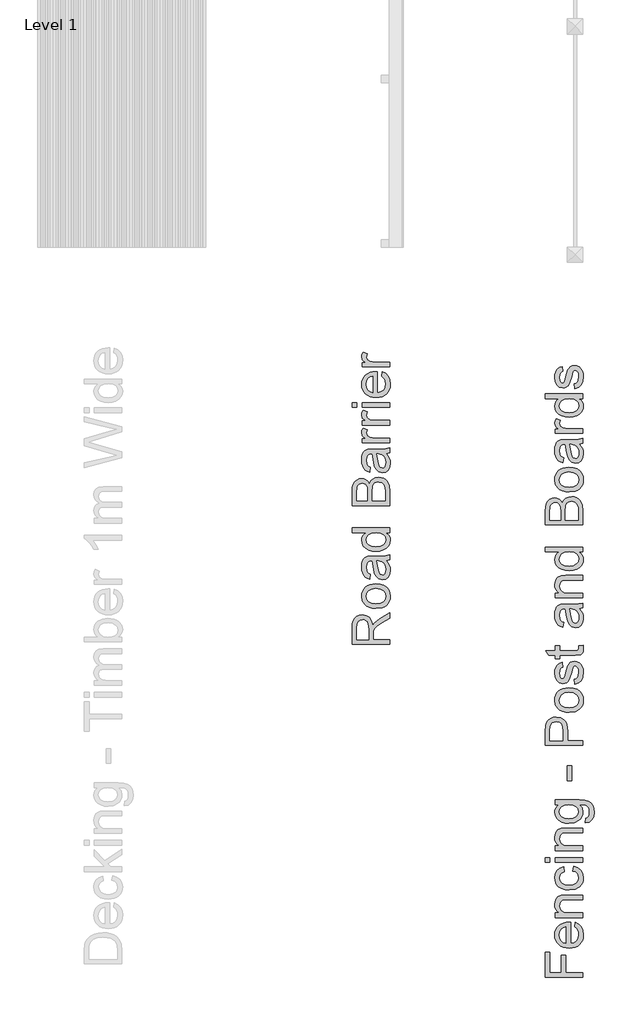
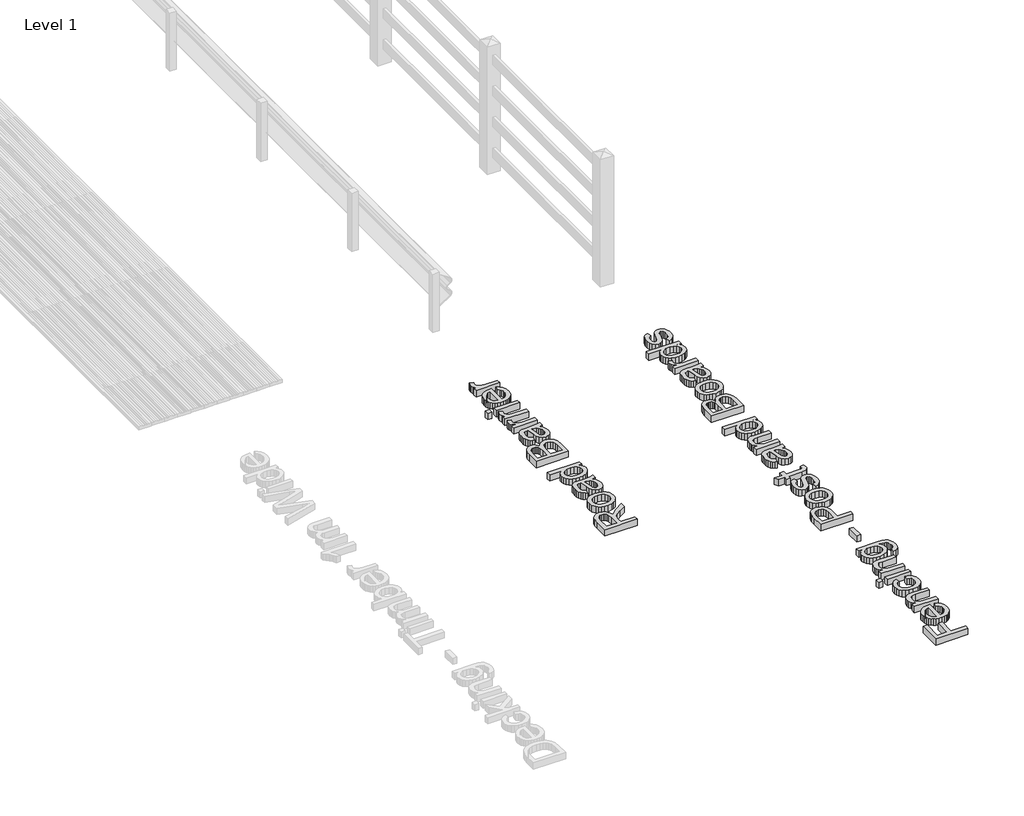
# One storey, part 7 of 7: 2 proxies.
"""IFC4 building model written with IfcOpenShell, lengths in millimetres."""

from ifc_helpers import new_model, si_unit, origin, origin_with_axes, place, context, project, spatial, polyline, outline, extrude, element, save

model = new_model("IFC4")

# Units and contexts
model_context = context("Model", 3, world=origin())
ifc_project = project(units=[si_unit("LENGTHUNIT", "METRE", prefix="MILLI")], contexts=[model_context])

# Site, building, storey
site = spatial("IfcSite", under=ifc_project)
building = spatial("IfcBuilding", under=site)
storey = spatial("IfcBuildingStorey", under=building, Name="Level 1", Elevation=0.0)

# Proxies
placement = place(None, origin())
element("IfcBuildingElementProxy", 1, Name="250mm Arial", ObjectType="250mm Arial", at=placement, inside=storey, context=model_context, shape_type="SweptSolid", body=[
    extrude(outline(polyline([(55560.7579588, -59077.8752425), (55314.6041126, -59077.8752425), (55314.6041126, -58971.805531), (55316.2642688, -58943.297418), (55321.2447376, -58922.5567329), (55330.4394491, -58907.3974781), (55344.7423338, -58895.633656), (55362.4782112, -58888.0840767), (55381.9719011, -58885.5675502), (55406.2206991, -58889.7367209), (55426.3228626, -58902.2442329), (55441.0614443, -58923.4656872), (55449.2194972, -58953.7766848), (55462.3805549, -58936.2887041), (55494.051228, -58911.3488002), (55560.7579588, -58870.3031271), (55560.7579588, -58906.0603387), (55509.7363241, -58938.0915887), (55475.9622857, -58961.2286079), (55460.0067568, -58977.4846175), (55454.1473818, -58992.118031), (55453.0656511, -59009.9665887), (55453.0656511, -59047.1060118), (55560.7579588, -59047.1060118), (55560.7579588, -59077.8752425)]), holes=[polyline([(55422.2964203, -59047.1060118), (55422.2964203, -58978.2358195), (55417.9394491, -58943.1096175), (55412.2753866, -58931.556132), (55403.9971414, -58923.1576945), (55393.9836198, -58918.0420094), (55383.113728, -58916.336781), (55368.1047136, -58919.5894853), (55356.0103626, -58929.3475983), (55348.0325982, -58946.1369613), (55345.3733434, -58970.4834156), (55345.3733434, -59047.1060118), (55422.2964203, -59047.1060118)])]), origin_with_axes(), (0.0, 0.0, 1.0), 50.8),
    extrude(outline(polyline([(55470.3733434, -58843.2598579), (55446.9621354, -58841.5959457), (55426.7886078, -58836.6042089), (55409.8527604, -58828.2846476), (55396.1545934, -58816.6372618), (55381.1455789, -58791.9677906), (55376.1425741, -58762.430531), (55377.665636, -58745.4552455), (55382.2348217, -58730.1063122), (55389.8501312, -58716.3837311), (55400.5115645, -58704.2875021), (55413.8585447, -58694.4148309), (55429.5304948, -58687.3629228), (55467.8493049, -58681.7213964), (55498.9340405, -58684.2153868), (55522.5969011, -58691.6973579), (55540.3177544, -58703.9494613), (55553.5764684, -58720.7538483), (55561.8472015, -58740.7132834), (55564.6041126, -58762.430531), (55563.0866847, -58779.6537131), (55558.5344011, -58795.1453747), (55550.9472616, -58808.905516), (55540.3252664, -58820.9341368), (55526.8487039, -58830.7016398), (55510.6978626, -58837.6784276), (55470.3733434, -58843.2598579)]), holes=[polyline([(55470.3132472, -58812.4906271), (55498.1603025, -58808.92993), (55517.9995453, -58798.2478387), (55529.8760477, -58782.1721175), (55533.8348818, -58762.430531), (55529.8535116, -58742.7790887), (55517.9094011, -58726.7334156), (55497.8072376, -58716.0513243), (55469.3517088, -58712.4906271), (55442.3159515, -58716.0738603), (55422.7471414, -58726.8235598), (55410.870639, -58742.891769), (55406.9118049, -58762.430531), (55410.855615, -58782.1721175), (55422.6870453, -58798.2478387), (55442.481216, -58808.92993), (55470.3132472, -58812.4906271)])]), origin_with_axes(), (0.0, 0.0, 1.0), 50.8),
    extrude(outline(polyline([(55537.6810357, -58531.7213964), (55550.2862039, -58546.422418), (55558.5344011, -58561.5591368), (55563.0866847, -58577.4771055), (55564.6041126, -58594.5218771), (55560.9532713, -58620.235519), (55550.0007472, -58639.2033675), (55533.3691366, -58650.8995815), (55512.6810357, -58654.7983195), (55488.3420934, -58648.9088964), (55470.6738241, -58633.4341368), (55460.5776703, -58611.8896656), (55455.9502664, -58585.2670695), (55445.3733434, -58531.9016848), (55438.5223818, -58531.7213964), (55424.7904107, -58533.8397858), (55415.8060357, -58540.1949541), (55409.1353626, -58554.4076945), (55406.9118049, -58574.2093771), (55408.3916727, -58592.5387041), (55412.8312761, -58605.3391848), (55421.0419131, -58614.0681512), (55433.8348818, -58620.1829348), (55429.988728, -58650.9521656), (55413.1618049, -58645.6111199), (55399.9406511, -58637.6408675), (55389.8294732, -58626.2977185), (55382.332478, -58610.8379829), (55377.6900501, -58591.9302305), (55376.1425741, -58570.243031), (55377.5097616, -58549.4422497), (55381.6113241, -58532.9533675), (55387.7786919, -58520.5209757), (55395.3432953, -58511.8896656), (55416.2267088, -58502.4545695), (55443.1497857, -58500.9521656), (55481.4310357, -58500.9521656), (55534.8865645, -58499.3896656), (55560.7579588, -58493.2598579), (55560.7579588, -58524.0290887), (55537.6810357, -58531.7213964)]), holes=[polyline([(55476.1425741, -58531.7213964), (55485.5776703, -58581.3608195), (55490.5656511, -58607.8331752), (55498.6786318, -58619.8223579), (55510.5175741, -58624.0290887), (55519.6672136, -58621.7379228), (55527.1642088, -58614.8644252), (55532.1672136, -58603.5588363), (55533.8348818, -58587.9713964), (55531.9944371, -58571.4449541), (55526.473103, -58556.8415887), (55518.3375862, -58545.0026464), (55508.6545934, -58536.7694733), (55484.8565164, -58531.9016848), (55476.1425741, -58531.7213964)])]), origin_with_axes(), (0.0, 0.0, 1.0), 50.8),
    extrude(outline(polyline([(55560.7579588, -58347.1060118), (55531.7315164, -58347.1060118), (55546.1132773, -58356.3119913), (55556.3859636, -58367.4635839), (55562.5495753, -58380.5607894), (55564.6041126, -58395.6036079), (55561.629353, -58415.4954348), (55552.7050741, -58433.7045695), (55538.4547737, -58449.1192329), (55519.5019491, -58460.6276464), (55496.6128265, -58467.7941127), (55470.5536318, -58470.1829348), (55444.8174539, -58467.9819132), (55421.5752664, -58461.3788483), (55402.1491847, -58450.3812521), (55387.8613241, -58434.9966368), (55379.0722616, -58416.3893651), (55376.1425741, -58395.7238002), (55378.2384275, -58380.6697137), (55384.5259876, -58367.3584156), (55394.1639083, -58356.0753627), (55406.3108434, -58347.1060118), (55314.6041126, -58347.1060118), (55314.6041126, -58316.336781), (55560.7579588, -58316.336781), (55560.7579588, -58347.1060118)]), holes=[polyline([(55470.4334395, -58439.4137041), (55498.2654708, -58435.9431512), (55518.0596414, -58425.5314925), (55529.8910717, -58410.4022858), (55533.8348818, -58392.7790887), (55530.0713602, -58375.1634036), (55518.7807953, -58360.4173098), (55499.7528506, -58350.4338363), (55472.7771895, -58347.1060118), (55443.285002, -58350.4939324), (55422.8372857, -58360.6576945), (55410.8931751, -58375.7793892), (55406.9118049, -58394.0411079), (55410.7354227, -58411.8445935), (55422.2062761, -58426.4329348), (55441.9103025, -58436.1685118), (55470.4334395, -58439.4137041)])]), origin_with_axes(), (0.0, 0.0, 1.0), 50.8),
    extrude(outline(polyline([(55560.7579588, -58170.1829348), (55314.6041126, -58170.1829348), (55314.6041126, -58076.2526464), (55316.4145092, -58050.4188122), (55321.8456991, -58030.2490406), (55331.0328987, -58014.789305), (55344.1113241, -58003.0855791), (55359.4959395, -57995.7162882), (55375.6017088, -57993.2598579), (55390.4229227, -57995.3256632), (55404.3577184, -58001.5230791), (55416.5497256, -58011.8971776), (55426.1425741, -58026.493031), (55435.2471414, -58009.0576344), (55449.0993049, -57996.1745214), (55466.7825982, -57988.219293), (55487.3805549, -57985.5675502), (55504.5455188, -57987.3779469), (55520.4634876, -57992.8091368), (55534.0001463, -58000.9146055), (55544.0211799, -58010.7478387), (55556.5211799, -58037.5206752), (55560.7579588, -58076.9738002), (55560.7579588, -58170.1829348)]), holes=[polyline([(55414.6041126, -58139.4137041), (55414.6041126, -58083.2238002), (55411.9598818, -58050.4113002), (55407.4000862, -58038.9254228), (55400.5716607, -58030.6697137), (55391.5797737, -58025.6892449), (55380.5295934, -58024.0290887), (55369.8024299, -58025.5765646), (55360.457478, -58030.2189925), (55353.1633073, -58037.7460358), (55348.5884876, -58047.9473579), (55345.3733434, -58087.4906271), (55345.3733434, -58139.4137041), (55414.6041126, -58139.4137041)]), polyline([(55529.988728, -58139.4137041), (55529.988728, -58076.3127425), (55528.7868049, -58053.4762041), (55522.0860838, -58034.1552906), (55508.4142088, -58021.3548098), (55487.6810357, -58016.336781), (55474.8204588, -58017.8091368), (55463.7627664, -58022.2262041), (55455.1164323, -58029.9410478), (55449.4899299, -58041.3067329), (55445.3733434, -58079.3175502), (55445.3733434, -58139.4137041), (55529.988728, -58139.4137041)])]), origin_with_axes(), (0.0, 0.0, 1.0), 50.8),
    extrude(outline(polyline([(55537.6810357, -57831.7213964), (55550.2862039, -57846.422418), (55558.5344011, -57861.5591368), (55563.0866847, -57877.4771055), (55564.6041126, -57894.5218771), (55560.9532713, -57920.235519), (55550.0007472, -57939.2033675), (55533.3691366, -57950.8995815), (55512.6810357, -57954.7983195), (55488.3420934, -57948.9088964), (55470.6738241, -57933.4341368), (55460.5776703, -57911.8896656), (55455.9502664, -57885.2670695), (55445.3733434, -57831.9016848), (55438.5223818, -57831.7213964), (55424.7904107, -57833.8397858), (55415.8060357, -57840.1949541), (55409.1353626, -57854.4076945), (55406.9118049, -57874.2093771), (55408.3916727, -57892.5387041), (55412.8312761, -57905.3391848), (55421.0419131, -57914.0681512), (55433.8348818, -57920.1829348), (55429.988728, -57950.9521656), (55413.1618049, -57945.6111199), (55399.9406511, -57937.6408675), (55389.8294732, -57926.2977185), (55382.332478, -57910.8379829), (55377.6900501, -57891.9302305), (55376.1425741, -57870.243031), (55377.5097616, -57849.4422497), (55381.6113241, -57832.9533675), (55387.7786919, -57820.5209757), (55395.3432953, -57811.8896656), (55416.2267088, -57802.4545695), (55443.1497857, -57800.9521656), (55481.4310357, -57800.9521656), (55534.8865645, -57799.3896656), (55560.7579588, -57793.2598579), (55560.7579588, -57824.0290887), (55537.6810357, -57831.7213964)]), holes=[polyline([(55476.1425741, -57831.7213964), (55485.5776703, -57881.3608195), (55490.5656511, -57907.8331752), (55498.6786318, -57919.8223579), (55510.5175741, -57924.0290887), (55519.6672136, -57921.7379228), (55527.1642088, -57914.8644252), (55532.1672136, -57903.5588363), (55533.8348818, -57887.9713964), (55531.9944371, -57871.4449541), (55526.473103, -57856.8415887), (55518.3375862, -57845.0026464), (55508.6545934, -57836.7694733), (55484.8565164, -57831.9016848), (55476.1425741, -57831.7213964)])]), origin_with_axes(), (0.0, 0.0, 1.0), 50.8),
    extrude(outline(polyline([(55560.7579588, -57758.6444733), (55379.988728, -57758.6444733), (55379.988728, -57731.7213964), (55406.7315164, -57731.7213964), (55391.2267088, -57721.7754829), (55382.0920934, -57712.6108195), (55376.1425741, -57693.3800502), (55378.5163722, -57678.055531), (55385.6377664, -57662.4906271), (55413.2219011, -57672.7670695), (55406.9118049, -57694.4016848), (55408.4292328, -57703.5888844), (55412.9815164, -57711.7995214), (55429.8084395, -57722.8872618), (55465.7459395, -57727.8752425), (55560.7579588, -57727.8752425), (55560.7579588, -57758.6444733)])), origin_with_axes(), (0.0, 0.0, 1.0), 50.8),
    extrude(outline(polyline([(55560.7579588, -57643.2598579), (55379.988728, -57643.2598579), (55379.988728, -57616.336781), (55406.7315164, -57616.336781), (55391.2267088, -57606.3908675), (55382.0920934, -57597.2262041), (55376.1425741, -57577.9954348), (55378.5163722, -57562.6709156), (55385.6377664, -57547.1060118), (55413.2219011, -57557.3824541), (55406.9118049, -57579.0170695), (55408.4292328, -57588.204269), (55412.9815164, -57596.414906), (55429.8084395, -57607.5026464), (55465.7459395, -57612.4906271), (55560.7579588, -57612.4906271), (55560.7579588, -57643.2598579)])), origin_with_axes(), (0.0, 0.0, 1.0), 50.8),
    extrude(outline(polyline([(55345.3733434, -57527.8752425), (55314.6041126, -57527.8752425), (55314.6041126, -57497.1060118), (55345.3733434, -57497.1060118), (55345.3733434, -57527.8752425)])), origin_with_axes(), (0.0, 0.0, 1.0), 50.8),
    extrude(outline(polyline([(55560.7579588, -57527.8752425), (55379.988728, -57527.8752425), (55379.988728, -57497.1060118), (55560.7579588, -57497.1060118), (55560.7579588, -57527.8752425)])), origin_with_axes(), (0.0, 0.0, 1.0), 50.8),
    extrude(outline(polyline([(55506.9118049, -57324.3896656), (55510.7579588, -57294.2213964), (55533.4893289, -57305.0912882), (55550.4815164, -57322.4365406), (55561.0734636, -57345.8665286), (55564.6041126, -57374.9906271), (55563.0810507, -57394.082424), (55558.511865, -57411.0933916), (55550.8965555, -57426.0235298), (55540.2351222, -57438.8728387), (55526.8242899, -57449.2056211), (55510.9607833, -57456.58618), (55492.6446024, -57461.0145154), (55471.8757472, -57462.4906271), (55450.4026402, -57460.9994913), (55431.4761078, -57456.5260839), (55415.0961499, -57449.0704048), (55401.2627664, -57438.6324541), (55390.2726823, -57425.8169493), (55382.4226222, -57411.2286079), (55377.7125862, -57394.86743), (55376.1425741, -57376.7334156), (55377.7088301, -57359.1834607), (55382.4075982, -57343.312442), (55390.2388782, -57329.1203597), (55401.2026703, -57316.6072137), (55415.0060056, -57306.3927455), (55431.3559155, -57299.0966969), (55450.2523999, -57294.7190676), (55471.6954588, -57293.2598579), (55479.988728, -57293.4401464), (55479.988728, -57431.7213964), (55503.0205789, -57426.3953747), (55519.9526703, -57414.0230791), (55530.3643289, -57396.1670094), (55533.8348818, -57374.3896656), (55532.2273097, -57358.0134637), (55527.4045934, -57344.2213964), (55519.066252, -57333.0134637), (55506.9118049, -57324.3896656)]), holes=[polyline([(55449.2194972, -57431.7213964), (55449.2194972, -57324.0290887), (55432.9634876, -57328.1907473), (55421.3348818, -57336.3488002), (55410.5175741, -57354.2875021), (55406.9118049, -57376.8536079), (55409.7889083, -57397.594293), (55418.4202184, -57414.7442329), (55431.8742448, -57426.6658074), (55449.2194972, -57431.7213964)])]), origin_with_axes(), (0.0, 0.0, 1.0), 50.8),
    extrude(outline(polyline([(55560.7579588, -57262.4906271), (55379.988728, -57262.4906271), (55379.988728, -57235.5675502), (55406.7315164, -57235.5675502), (55391.2267088, -57225.6216368), (55382.0920934, -57216.4569733), (55376.1425741, -57197.2262041), (55378.5163722, -57181.9016848), (55385.6377664, -57166.336781), (55413.2219011, -57176.6132233), (55406.9118049, -57198.2478387), (55408.4292328, -57207.4350382), (55412.9815164, -57215.6456752), (55429.8084395, -57226.7334156), (55465.7459395, -57231.7213964), (55560.7579588, -57231.7213964), (55560.7579588, -57262.4906271)])), origin_with_axes(), (0.0, 0.0, 1.0), 50.8),
])
element("IfcBuildingElementProxy", 2, Name="250mm Arial", ObjectType="250mm Arial", at=placement, inside=storey, context=model_context, shape_type="SweptSolid", body=[
    extrude(outline(polyline([(56824.5212473, -61257.9827733), (56578.3674012, -61257.9827733), (56578.3674012, -61092.5981579), (56609.1366319, -61092.5981579), (56609.1366319, -61227.2135425), (56682.213555, -61227.2135425), (56682.213555, -61111.8289272), (56712.9827858, -61111.8289272), (56712.9827858, -61227.2135425), (56824.5212473, -61227.2135425), (56824.5212473, -61257.9827733)])), origin_with_axes(), (0.0, 0.0, 1.0), 50.8),
    extrude(outline(polyline([(56770.6750935, -60927.5741195), (56774.5212473, -60897.4058502), (56797.2526175, -60908.2757421), (56814.244805, -60925.6209945), (56824.8367521, -60949.0509825), (56828.3674012, -60978.175081), (56826.8443393, -60997.2668779), (56822.2751536, -61014.2778454), (56814.6598441, -61029.2079837), (56803.9984108, -61042.0572925), (56790.5875784, -61052.390075), (56774.7240718, -61059.7706339), (56756.4078909, -61064.1989692), (56735.6390358, -61065.675081), (56714.1659288, -61064.1839452), (56695.2393964, -61059.7105377), (56678.8594384, -61052.2548587), (56665.026055, -61041.8169079), (56654.0359709, -61029.0014031), (56646.1859108, -61014.4130618), (56641.4758747, -60998.0518839), (56639.9058627, -60979.9178695), (56641.4721187, -60962.3679145), (56646.1708867, -60946.4968959), (56654.0021668, -60932.3048136), (56664.9659589, -60919.7916675), (56678.7692942, -60909.5771994), (56695.119204, -60902.2811507), (56714.0156884, -60897.9035215), (56735.4587473, -60896.4443118), (56743.7520165, -60896.6246002), (56743.7520165, -61034.9058502), (56766.7838675, -61029.5798286), (56783.7159589, -61017.2075329), (56794.1276175, -60999.3514632), (56797.5981704, -60977.5741195), (56795.9905983, -60961.1979175), (56791.1678819, -60947.4058502), (56782.8295406, -60936.1979175), (56770.6750935, -60927.5741195)]), holes=[polyline([(56712.9827858, -61034.9058502), (56712.9827858, -60927.2135425), (56696.7267762, -60931.3752012), (56685.0981704, -60939.5332541), (56674.2808627, -60957.471956), (56670.6750935, -60980.0380618), (56673.5521968, -61000.7787469), (56682.1835069, -61017.9286868), (56695.6375334, -61029.8502613), (56712.9827858, -61034.9058502)])]), origin_with_axes(), (0.0, 0.0, 1.0), 50.8),
    extrude(outline(polyline([(56824.5212473, -60865.675081), (56643.7520165, -60865.675081), (56643.7520165, -60834.9058502), (56668.9924012, -60834.9058502), (56656.2670406, -60824.2162469), (56647.1774973, -60811.378206), (56641.7237714, -60796.3917276), (56639.9058627, -60779.2568118), (56645.7652377, -60750.2003214), (56652.541079, -60738.6167877), (56661.1498531, -60730.3685906), (56683.776055, -60721.143831), (56713.5236512, -60719.5212349), (56824.5212473, -60719.5212349), (56824.5212473, -60750.2904656), (56717.6702858, -60750.2904656), (56690.4467281, -60753.8361387), (56682.3412593, -60758.7414873), (56676.0536992, -60766.3661868), (56670.6750935, -60787.4899849), (56673.6949252, -60805.511319), (56682.7544204, -60820.8733983), (56700.2574252, -60831.3977373), (56728.6077858, -60834.9058502), (56824.5212473, -60834.9058502), (56824.5212473, -60865.675081)])), origin_with_axes(), (0.0, 0.0, 1.0), 50.8),
    extrude(outline(polyline([(56759.1366319, -60561.8289272), (56762.9827858, -60531.0596964), (56790.3490718, -60539.6384224), (56811.0296608, -60555.7592156), (56824.0329661, -60577.9046483), (56828.3674012, -60604.5572925), (56826.8556073, -60621.8142787), (56822.3202257, -60637.2871603), (56814.7612563, -60650.9759374), (56804.1786992, -60662.8806099), (56790.7716229, -60672.5166525), (56774.7390959, -60679.3995401), (56734.7976896, -60684.9058502), (56707.4163795, -60682.5545882), (56683.6859108, -60675.5008022), (56664.5227497, -60663.6318118), (56650.8433627, -60646.8349368), (56642.6402377, -60626.7402853), (56639.9058627, -60604.9779656), (56643.6618723, -60578.9788671), (56654.9299012, -60558.1931099), (56673.1089877, -60543.2817517), (56697.5981704, -60534.9058502), (56701.4443242, -60565.675081), (56688.0203459, -60571.2565113), (56678.3974492, -60579.9479175), (56672.6056824, -60591.2685305), (56670.6750935, -60604.737581), (56674.4761752, -60624.6218959), (56685.8794204, -60640.4046483), (56705.5008146, -60650.7036267), (56733.9563435, -60654.1366195), (56762.7949853, -60650.7787469), (56782.4839877, -60640.7051291), (56793.8196247, -60625.2078334), (56797.5981704, -60605.5789272), (56795.2393964, -60589.6459344), (56788.1630742, -60576.5825329), (56776.1889156, -60567.0798286), (56759.1366319, -60561.8289272)])), origin_with_axes(), (0.0, 0.0, 1.0), 50.8),
    extrude(outline(polyline([(56609.1366319, -60504.1366195), (56578.3674012, -60504.1366195), (56578.3674012, -60473.3673887), (56609.1366319, -60473.3673887), (56609.1366319, -60504.1366195)])), origin_with_axes(), (0.0, 0.0, 1.0), 50.8),
    extrude(outline(polyline([(56824.5212473, -60504.1366195), (56643.7520165, -60504.1366195), (56643.7520165, -60473.3673887), (56824.5212473, -60473.3673887), (56824.5212473, -60504.1366195)])), origin_with_axes(), (0.0, 0.0, 1.0), 50.8),
    extrude(outline(polyline([(56824.5212473, -60427.2135425), (56643.7520165, -60427.2135425), (56643.7520165, -60396.4443118), (56668.9924012, -60396.4443118), (56656.2670406, -60385.7547084), (56647.1774973, -60372.9166675), (56641.7237714, -60357.9301892), (56639.9058627, -60340.7952733), (56645.7652377, -60311.7387829), (56652.541079, -60300.1552493), (56661.1498531, -60291.9070522), (56683.776055, -60282.6822925), (56713.5236512, -60281.0596964), (56824.5212473, -60281.0596964), (56824.5212473, -60311.8289272), (56717.6702858, -60311.8289272), (56690.4467281, -60315.3746002), (56682.3412593, -60320.2799488), (56676.0536992, -60327.9046483), (56670.6750935, -60349.0284464), (56673.6949252, -60367.0497805), (56682.7544204, -60382.4118599), (56700.2574252, -60392.9361988), (56728.6077858, -60396.4443118), (56824.5212473, -60396.4443118), (56824.5212473, -60427.2135425)])), origin_with_axes(), (0.0, 0.0, 1.0), 50.8),
    extrude(outline(polyline([(56839.9058627, -60246.4443118), (56843.7520165, -60215.675081), (56853.3674012, -60212.2796483), (56859.9779781, -60205.6991195), (56865.1161992, -60192.7634224), (56866.8289396, -60175.831331), (56864.8908387, -60157.7724368), (56859.0765358, -60144.3409464), (56849.7616319, -60135.0260425), (56837.3217281, -60129.3169079), (56801.4443242, -60127.2135425), (56818.7520165, -60148.878206), (56824.5212473, -60175.2904656), (56822.842311, -60192.1605828), (56817.8055021, -60207.0137228), (56809.4108206, -60219.8498857), (56797.6582665, -60230.6690714), (56768.1210069, -60245.3851171), (56733.2351896, -60250.2904656), (56708.392942, -60248.089444), (56685.5488915, -60241.4863791), (56666.190418, -60230.7141435), (56651.8049012, -60216.0056099), (56642.8806223, -60197.8640834), (56639.9058627, -60176.7928695), (56641.588555, -60162.4035966), (56646.6366319, -60149.3439512), (56655.0500935, -60137.6139332), (56666.8289396, -60127.2135425), (56643.7520165, -60127.2135425), (56643.7520165, -60096.4443118), (56799.8217281, -60096.4443118), (56835.8568843, -60098.5476772), (56859.5873531, -60104.8577733), (56875.3250334, -60115.7276651), (56887.3818242, -60131.5104175), (56895.0440839, -60151.8604776), (56897.5981704, -60176.4322925), (56893.9999132, -60205.0605978), (56883.2051415, -60227.6041675), (56865.1838074, -60242.0648046), (56839.9058627, -60246.4443118)]), holes=[polyline([(56731.1318242, -60219.5212349), (56759.3544805, -60216.2384825), (56778.7580262, -60206.3902252), (56790.003519, -60191.5840353), (56793.7520165, -60173.4274849), (56790.026055, -60155.4061507), (56778.8481704, -60140.5248406), (56759.6925214, -60130.5413671), (56732.0332665, -60127.2135425), (56705.3580863, -60130.6390233), (56686.1498531, -60140.9154656), (56674.5437834, -60156.0146243), (56670.6750935, -60173.9082541), (56674.4836872, -60191.4788671), (56685.9094685, -60206.2099368), (56704.8322449, -60216.1934103), (56731.1318242, -60219.5212349)])]), origin_with_axes(), (0.0, 0.0, 1.0), 50.8),
    extrude(outline(polyline([(56751.4443242, -59969.5212349), (56720.6750935, -59969.5212349), (56720.6750935, -59873.3673887), (56751.4443242, -59873.3673887), (56751.4443242, -59969.5212349)])), origin_with_axes(), (0.0, 0.0, 1.0), 50.8),
    extrude(outline(polyline([(56824.5212473, -59738.7520041), (56578.3674012, -59738.7520041), (56578.3674012, -59647.5260425), (56580.7111512, -59610.7471964), (56585.0906584, -59594.3484584), (56592.2195646, -59580.8493599), (56602.4208867, -59569.979468), (56616.0176415, -59561.4683502), (56632.0558026, -59555.9695522), (56649.5813435, -59554.1366195), (56678.5927617, -59559.0870401), (56702.7664396, -59573.9383022), (56712.284168, -59585.8317066), (56719.0825454, -59601.7102373), (56723.1615718, -59621.5738941), (56724.5212473, -59645.4226772), (56724.5212473, -59707.9827733), (56824.5212473, -59707.9827733), (56824.5212473, -59738.7520041)]), holes=[polyline([(56693.7520165, -59707.9827733), (56693.7520165, -59643.6197925), (56690.9274973, -59616.3361387), (56682.4539396, -59598.3072925), (56668.8571848, -59588.2562108), (56650.6630742, -59584.9058502), (56636.8409589, -59586.8815113), (56625.182305, -59592.8084945), (56616.4082665, -59601.9506219), (56611.2399973, -59613.5717156), (56609.1366319, -59644.3409464), (56609.1366319, -59707.9827733), (56693.7520165, -59707.9827733)])]), origin_with_axes(), (0.0, 0.0, 1.0), 50.8),
    extrude(outline(polyline([(56734.1366319, -59523.3673887), (56710.725424, -59521.7034764), (56690.5518964, -59516.7117397), (56673.616049, -59508.3921784), (56659.9178819, -59496.7447925), (56644.9088675, -59472.0753214), (56639.9058627, -59442.5380618), (56641.4289246, -59425.5627763), (56645.9981103, -59410.213843), (56653.6134198, -59396.4912619), (56664.2748531, -59384.3950329), (56677.6218333, -59374.5223617), (56693.2937834, -59367.4704536), (56731.6125935, -59361.8289272), (56762.697329, -59364.3229175), (56786.3601896, -59371.8048887), (56804.081043, -59384.0569921), (56817.3397569, -59400.8613791), (56825.6104901, -59420.8208142), (56828.3674012, -59442.5380618), (56826.8499733, -59459.7612439), (56822.2976896, -59475.2529055), (56814.7105502, -59489.0130468), (56804.088555, -59501.0416675), (56790.6119925, -59510.8091706), (56774.4611512, -59517.7859584), (56734.1366319, -59523.3673887)]), holes=[polyline([(56734.0765358, -59492.5981579), (56761.9235911, -59489.0374608), (56781.7628339, -59478.3553695), (56793.6393363, -59462.2796483), (56797.5981704, -59442.5380618), (56793.6168002, -59422.8866195), (56781.6726896, -59406.8409464), (56761.5705262, -59396.158855), (56733.1149973, -59392.5981579), (56706.0792401, -59396.1813911), (56686.51043, -59406.9310906), (56674.6339276, -59422.9992998), (56670.6750935, -59442.5380618), (56674.6189036, -59462.2796483), (56686.4503339, -59478.3553695), (56706.2445045, -59489.0374608), (56734.0765358, -59492.5981579)])]), origin_with_axes(), (0.0, 0.0, 1.0), 50.8),
    extrude(outline(polyline([(56770.6750935, -59338.7520041), (56766.8289396, -59307.9827733), (56779.9899973, -59303.1300089), (56789.6654781, -59293.7399849), (56795.6149973, -59279.752605), (56797.5981704, -59261.1077733), (56795.7802617, -59242.6883022), (56790.3265358, -59229.737581), (56782.4238915, -59222.0753214), (56773.2592281, -59219.5212349), (56765.41668, -59222.0903454), (56759.4371127, -59229.7976772), (56750.6630742, -59261.4683502), (56735.6089877, -59307.8024849), (56728.0443843, -59319.5287469), (56718.0308627, -59328.0248406), (56706.2069444, -59333.1855978), (56693.2111512, -59334.9058502), (56670.2844685, -59329.3770041), (56652.7664396, -59314.2928695), (56643.6618723, -59294.7315714), (56639.9058627, -59268.2592156), (56641.4157786, -59248.2321724), (56645.9455262, -59230.8193118), (56653.0518964, -59216.8169079), (56662.29168, -59207.0212349), (56674.3484709, -59200.5308502), (56689.9058627, -59196.4443118), (56693.7520165, -59227.2135425), (56684.0690238, -59231.0972565), (56676.7748531, -59238.7820522), (56672.2000334, -59250.3430498), (56670.6750935, -59265.8553695), (56672.1324252, -59283.5236387), (56676.5044204, -59295.3024849), (56682.8145165, -59301.9280858), (56690.0861512, -59304.1366195), (56699.0404781, -59300.4707541), (56705.8313435, -59288.9923887), (56712.3818242, -59262.4899849), (56726.8649973, -59217.3277252), (56733.791079, -59205.3986387), (56743.2712473, -59196.3541675), (56755.3355502, -59190.652545), (56770.0140358, -59188.7520041), (56785.1883146, -59190.9830738), (56799.4611512, -59197.6762829), (56811.7132545, -59208.5762228), (56820.8253339, -59223.4274849), (56826.4818843, -59241.3661868), (56828.3674012, -59261.5284464), (56824.7315839, -59292.5530858), (56813.8241319, -59315.1943118), (56795.7652377, -59330.3084945), (56770.6750935, -59338.7520041)])), origin_with_axes(), (0.0, 0.0, 1.0), 50.8),
    extrude(outline(polyline([(56798.8601896, -59088.7520041), (56825.4226896, -59084.9058502), (56828.3674012, -59107.9226772), (56827.0903579, -59122.691307), (56823.2592281, -59133.7039272), (56809.8577858, -59146.5645041), (56774.9419204, -59150.2904656), (56674.5212473, -59150.2904656), (56674.5212473, -59173.3673887), (56643.7520165, -59173.3673887), (56643.7520165, -59150.2904656), (56599.8217281, -59150.2904656), (56581.7327858, -59119.5212349), (56643.7520165, -59119.5212349), (56643.7520165, -59088.7520041), (56674.5212473, -59088.7520041), (56674.5212473, -59119.5212349), (56774.0404781, -59119.5212349), (56789.9058627, -59117.8986387), (56795.5248531, -59112.6402252), (56797.5981704, -59102.1534464), (56798.8601896, -59088.7520041)])), origin_with_axes(), (0.0, 0.0, 1.0), 50.8),
    extrude(outline(polyline([(56801.4443242, -58846.4443118), (56814.0494925, -58861.1453334), (56822.2976896, -58876.2820522), (56826.8499733, -58892.2000209), (56828.3674012, -58909.2447925), (56824.7165598, -58934.9584344), (56813.7640358, -58953.9262829), (56797.1324252, -58965.6224969), (56776.4443242, -58969.5212349), (56752.1053819, -58963.6318118), (56734.4371127, -58948.1570522), (56724.3409589, -58926.612581), (56719.713555, -58899.9899849), (56709.1366319, -58846.6246002), (56702.2856704, -58846.4443118), (56688.5536992, -58848.5627012), (56679.5693242, -58854.9178695), (56672.8986512, -58869.1306099), (56670.6750935, -58888.9322925), (56672.1549613, -58907.2616195), (56676.5945646, -58920.0621002), (56684.8052016, -58928.7910666), (56697.5981704, -58934.9058502), (56693.7520165, -58965.675081), (56676.9250935, -58960.3340353), (56663.7039396, -58952.3637829), (56653.5927617, -58941.0206339), (56646.0957665, -58925.5608983), (56641.4533387, -58906.6531459), (56639.9058627, -58884.9659464), (56641.2730502, -58864.1651651), (56645.3746127, -58847.6762829), (56651.5419805, -58835.2438911), (56659.1065839, -58826.612581), (56679.9899973, -58817.1774849), (56706.9130742, -58815.675081), (56745.1943242, -58815.675081), (56798.6498531, -58814.112581), (56824.5212473, -58807.9827733), (56824.5212473, -58838.7520041), (56801.4443242, -58846.4443118)]), holes=[polyline([(56739.9058627, -58846.4443118), (56749.3409589, -58896.0837349), (56754.3289396, -58922.5560906), (56762.4419204, -58934.5452733), (56774.2808627, -58938.7520041), (56783.4305021, -58936.4608382), (56790.9274973, -58929.5873406), (56795.9305021, -58918.2817517), (56797.5981704, -58902.6943118), (56795.7577257, -58886.1678695), (56790.2363915, -58871.5645041), (56782.1008747, -58859.7255618), (56772.4178819, -58851.4923887), (56748.619805, -58846.6246002), (56739.9058627, -58846.4443118)])]), origin_with_axes(), (0.0, 0.0, 1.0), 50.8),
    extrude(outline(polyline([(56824.5212473, -58773.3673887), (56643.7520165, -58773.3673887), (56643.7520165, -58742.5981579), (56668.9924012, -58742.5981579), (56656.2670406, -58731.9085546), (56647.1774973, -58719.0705137), (56641.7237714, -58704.0840353), (56639.9058627, -58686.9491195), (56645.7652377, -58657.8926291), (56652.541079, -58646.3090954), (56661.1498531, -58638.0608983), (56683.776055, -58628.8361387), (56713.5236512, -58627.2135425), (56824.5212473, -58627.2135425), (56824.5212473, -58657.9827733), (56717.6702858, -58657.9827733), (56690.4467281, -58661.5284464), (56682.3412593, -58666.433795), (56676.0536992, -58674.0584945), (56670.6750935, -58695.1822925), (56673.6949252, -58713.2036267), (56682.7544204, -58728.565706), (56700.2574252, -58739.090045), (56728.6077858, -58742.5981579), (56824.5212473, -58742.5981579), (56824.5212473, -58773.3673887)])), origin_with_axes(), (0.0, 0.0, 1.0), 50.8),
    extrude(outline(polyline([(56824.5212473, -58473.3673887), (56795.494805, -58473.3673887), (56809.8765658, -58482.5733683), (56820.1492521, -58493.7249608), (56826.3128639, -58506.8221663), (56828.3674012, -58521.8649849), (56825.3926415, -58541.7568118), (56816.4683627, -58559.9659464), (56802.2180622, -58575.3806099), (56783.2652377, -58586.8890233), (56760.3761151, -58594.0554897), (56734.3169204, -58596.4443118), (56708.5807425, -58594.2432901), (56685.338555, -58587.6402252), (56665.9124733, -58576.6426291), (56651.6246127, -58561.2580137), (56642.8355502, -58542.6507421), (56639.9058627, -58521.9851772), (56642.0017161, -58506.9310906), (56648.2892762, -58493.6197925), (56657.9271968, -58482.3367397), (56670.0741319, -58473.3673887), (56578.3674012, -58473.3673887), (56578.3674012, -58442.5981579), (56824.5212473, -58442.5981579), (56824.5212473, -58473.3673887)]), holes=[polyline([(56734.1967281, -58565.675081), (56762.0287593, -58562.2045281), (56781.82293, -58551.7928695), (56793.6543603, -58536.6636627), (56797.5981704, -58519.0404656), (56793.8346488, -58501.4247805), (56782.5440839, -58486.6786868), (56763.5161391, -58476.6952132), (56736.5404781, -58473.3673887), (56707.0482906, -58476.7553094), (56686.6005742, -58486.9190714), (56674.6564637, -58502.0407661), (56670.6750935, -58520.3024849), (56674.4987113, -58538.1059704), (56685.9695646, -58552.6943118), (56705.6735911, -58562.4298887), (56734.1967281, -58565.675081)])]), origin_with_axes(), (0.0, 0.0, 1.0), 50.8),
    extrude(outline(polyline([(56824.5212473, -58296.4443118), (56578.3674012, -58296.4443118), (56578.3674012, -58202.5140233), (56580.1777978, -58176.6801892), (56585.6089877, -58156.5104175), (56594.7961872, -58141.050682), (56607.8746127, -58129.346956), (56623.2592281, -58121.9776651), (56639.3649973, -58119.5212349), (56654.1862113, -58121.5870401), (56668.1210069, -58127.784456), (56680.3130141, -58138.1585546), (56689.9058627, -58152.7544079), (56699.01043, -58135.3190113), (56712.8625935, -58122.4358983), (56730.5458867, -58114.48067), (56751.1438435, -58111.8289272), (56768.3088074, -58113.6393238), (56784.2267762, -58119.0705137), (56797.7634348, -58127.1759825), (56807.7844685, -58137.0092156), (56820.2844685, -58163.7820522), (56824.5212473, -58203.2351772), (56824.5212473, -58296.4443118)]), holes=[polyline([(56678.3674012, -58265.675081), (56678.3674012, -58209.4851772), (56675.7231704, -58176.6726772), (56671.1633747, -58165.1867998), (56664.3349492, -58156.9310906), (56655.3430622, -58151.9506219), (56644.2928819, -58150.2904656), (56633.5657185, -58151.8379416), (56624.2207665, -58156.4803695), (56616.9265959, -58164.0074127), (56612.3517762, -58174.2087349), (56609.1366319, -58213.7520041), (56609.1366319, -58265.675081), (56678.3674012, -58265.675081)]), polyline([(56793.7520165, -58265.675081), (56793.7520165, -58202.5741195), (56792.5500935, -58179.737581), (56785.8493723, -58160.4166675), (56772.1774973, -58147.6161868), (56751.4443242, -58142.5981579), (56738.5837473, -58144.0705137), (56727.526055, -58148.487581), (56718.8797209, -58156.2024248), (56713.2532185, -58167.5681099), (56709.1366319, -58205.5789272), (56709.1366319, -58265.675081), (56793.7520165, -58265.675081)])]), origin_with_axes(), (0.0, 0.0, 1.0), 50.8),
    extrude(outline(polyline([(56734.1366319, -58081.0596964), (56710.725424, -58079.3957841), (56690.5518964, -58074.4040474), (56673.616049, -58066.0844861), (56659.9178819, -58054.4371002), (56644.9088675, -58029.7676291), (56639.9058627, -58000.2303695), (56641.4289246, -57983.255084), (56645.9981103, -57967.9061507), (56653.6134198, -57954.1835696), (56664.2748531, -57942.0873406), (56677.6218333, -57932.2146694), (56693.2937834, -57925.1627613), (56731.6125935, -57919.5212349), (56762.697329, -57922.0152252), (56786.3601896, -57929.4971964), (56804.081043, -57941.7492998), (56817.3397569, -57958.5536868), (56825.6104901, -57978.5131219), (56828.3674012, -58000.2303695), (56826.8499733, -58017.4535516), (56822.2976896, -58032.9452132), (56814.7105502, -58046.7053544), (56804.088555, -58058.7339752), (56790.6119925, -58068.5014782), (56774.4611512, -58075.4782661), (56734.1366319, -58081.0596964)]), holes=[polyline([(56734.0765358, -58050.2904656), (56761.9235911, -58046.7297685), (56781.7628339, -58036.0476772), (56793.6393363, -58019.971956), (56797.5981704, -58000.2303695), (56793.6168002, -57980.5789272), (56781.6726896, -57964.5332541), (56761.5705262, -57953.8511627), (56733.1149973, -57950.2904656), (56706.0792401, -57953.8736988), (56686.51043, -57964.6233983), (56674.6339276, -57980.6916075), (56670.6750935, -58000.2303695), (56674.6189036, -58019.971956), (56686.4503339, -58036.0476772), (56706.2445045, -58046.7297685), (56734.0765358, -58050.2904656)])]), origin_with_axes(), (0.0, 0.0, 1.0), 50.8),
    extrude(outline(polyline([(56801.4443242, -57769.5212349), (56814.0494925, -57784.2222565), (56822.2976896, -57799.3589752), (56826.8499733, -57815.276944), (56828.3674012, -57832.3217156), (56824.7165598, -57858.0353575), (56813.7640358, -57877.003206), (56797.1324252, -57888.69942), (56776.4443242, -57892.5981579), (56752.1053819, -57886.7087349), (56734.4371127, -57871.2339752), (56724.3409589, -57849.6895041), (56719.713555, -57823.0669079), (56709.1366319, -57769.7015233), (56702.2856704, -57769.5212349), (56688.5536992, -57771.6396243), (56679.5693242, -57777.9947925), (56672.8986512, -57792.2075329), (56670.6750935, -57812.0092156), (56672.1549613, -57830.3385425), (56676.5945646, -57843.1390233), (56684.8052016, -57851.8679897), (56697.5981704, -57857.9827733), (56693.7520165, -57888.7520041), (56676.9250935, -57883.4109584), (56663.7039396, -57875.440706), (56653.5927617, -57864.097557), (56646.0957665, -57848.6378214), (56641.4533387, -57829.730069), (56639.9058627, -57808.0428695), (56641.2730502, -57787.2420882), (56645.3746127, -57770.753206), (56651.5419805, -57758.3208142), (56659.1065839, -57749.6895041), (56679.9899973, -57740.2544079), (56706.9130742, -57738.7520041), (56745.1943242, -57738.7520041), (56798.6498531, -57737.1895041), (56824.5212473, -57731.0596964), (56824.5212473, -57761.8289272), (56801.4443242, -57769.5212349)]), holes=[polyline([(56739.9058627, -57769.5212349), (56749.3409589, -57819.1606579), (56754.3289396, -57845.6330137), (56762.4419204, -57857.6221964), (56774.2808627, -57861.8289272), (56783.4305021, -57859.5377613), (56790.9274973, -57852.6642637), (56795.9305021, -57841.3586748), (56797.5981704, -57825.7712349), (56795.7577257, -57809.2447925), (56790.2363915, -57794.6414272), (56782.1008747, -57782.8024849), (56772.4178819, -57774.5693118), (56748.619805, -57769.7015233), (56739.9058627, -57769.5212349)])]), origin_with_axes(), (0.0, 0.0, 1.0), 50.8),
    extrude(outline(polyline([(56824.5212473, -57696.4443118), (56643.7520165, -57696.4443118), (56643.7520165, -57669.5212349), (56670.494805, -57669.5212349), (56654.9899973, -57659.5753214), (56645.8553819, -57650.4106579), (56639.9058627, -57631.1798887), (56642.2796608, -57615.8553695), (56649.401055, -57600.2904656), (56676.9851896, -57610.5669079), (56670.6750935, -57632.2015233), (56672.1925214, -57641.3887228), (56676.744805, -57649.5993599), (56693.5717281, -57660.6871002), (56729.5092281, -57665.675081), (56824.5212473, -57665.675081), (56824.5212473, -57696.4443118)])), origin_with_axes(), (0.0, 0.0, 1.0), 50.8),
    extrude(outline(polyline([(56824.5212473, -57469.5212349), (56795.494805, -57469.5212349), (56809.8765658, -57478.7272144), (56820.1492521, -57489.878807), (56826.3128639, -57502.9760125), (56828.3674012, -57518.018831), (56825.3926415, -57537.9106579), (56816.4683627, -57556.1197925), (56802.2180622, -57571.534456), (56783.2652377, -57583.0428695), (56760.3761151, -57590.2093358), (56734.3169204, -57592.5981579), (56708.5807425, -57590.3971363), (56685.338555, -57583.7940714), (56665.9124733, -57572.7964752), (56651.6246127, -57557.4118599), (56642.8355502, -57538.8045882), (56639.9058627, -57518.1390233), (56642.0017161, -57503.0849368), (56648.2892762, -57489.7736387), (56657.9271968, -57478.4905858), (56670.0741319, -57469.5212349), (56578.3674012, -57469.5212349), (56578.3674012, -57438.7520041), (56824.5212473, -57438.7520041), (56824.5212473, -57469.5212349)]), holes=[polyline([(56734.1967281, -57561.8289272), (56762.0287593, -57558.3583743), (56781.82293, -57547.9467156), (56793.6543603, -57532.8175089), (56797.5981704, -57515.1943118), (56793.8346488, -57497.5786267), (56782.5440839, -57482.8325329), (56763.5161391, -57472.8490594), (56736.5404781, -57469.5212349), (56707.0482906, -57472.9091555), (56686.6005742, -57483.0729175), (56674.6564637, -57498.1946123), (56670.6750935, -57516.456331), (56674.4987113, -57534.2598166), (56685.9695646, -57548.8481579), (56705.6735911, -57558.5837349), (56734.1967281, -57561.8289272)])]), origin_with_axes(), (0.0, 0.0, 1.0), 50.8),
    extrude(outline(polyline([(56770.6750935, -57404.1366195), (56766.8289396, -57373.3673887), (56779.9899973, -57368.5146243), (56789.6654781, -57359.1246002), (56795.6149973, -57345.1372204), (56797.5981704, -57326.4923887), (56795.7802617, -57308.0729175), (56790.3265358, -57295.1221964), (56782.4238915, -57287.4599368), (56773.2592281, -57284.9058502), (56765.41668, -57287.4749608), (56759.4371127, -57295.1822925), (56750.6630742, -57326.8529656), (56735.6089877, -57373.1871002), (56728.0443843, -57384.9133623), (56718.0308627, -57393.409456), (56706.2069444, -57398.5702132), (56693.2111512, -57400.2904656), (56670.2844685, -57394.7616195), (56652.7664396, -57379.6774849), (56643.6618723, -57360.1161868), (56639.9058627, -57333.643831), (56641.4157786, -57313.6167877), (56645.9455262, -57296.2039272), (56653.0518964, -57282.2015233), (56662.29168, -57272.4058502), (56674.3484709, -57265.9154656), (56689.9058627, -57261.8289272), (56693.7520165, -57292.5981579), (56684.0690238, -57296.4818719), (56676.7748531, -57304.1666675), (56672.2000334, -57315.7276651), (56670.6750935, -57331.2399849), (56672.1324252, -57348.9082541), (56676.5044204, -57360.6871002), (56682.8145165, -57367.3127012), (56690.0861512, -57369.5212349), (56699.0404781, -57365.8553695), (56705.8313435, -57354.3770041), (56712.3818242, -57327.8746002), (56726.8649973, -57282.7123406), (56733.791079, -57270.7832541), (56743.2712473, -57261.7387829), (56755.3355502, -57256.0371603), (56770.0140358, -57254.1366195), (56785.1883146, -57256.3676892), (56799.4611512, -57263.0608983), (56811.7132545, -57273.9608382), (56820.8253339, -57288.8121002), (56826.4818843, -57306.7508022), (56828.3674012, -57326.9130618), (56824.7315839, -57357.9377012), (56813.8241319, -57380.5789272), (56795.7652377, -57395.6931099), (56770.6750935, -57404.1366195)])), origin_with_axes(), (0.0, 0.0, 1.0), 50.8),
])

save(model, "model.ifc")
